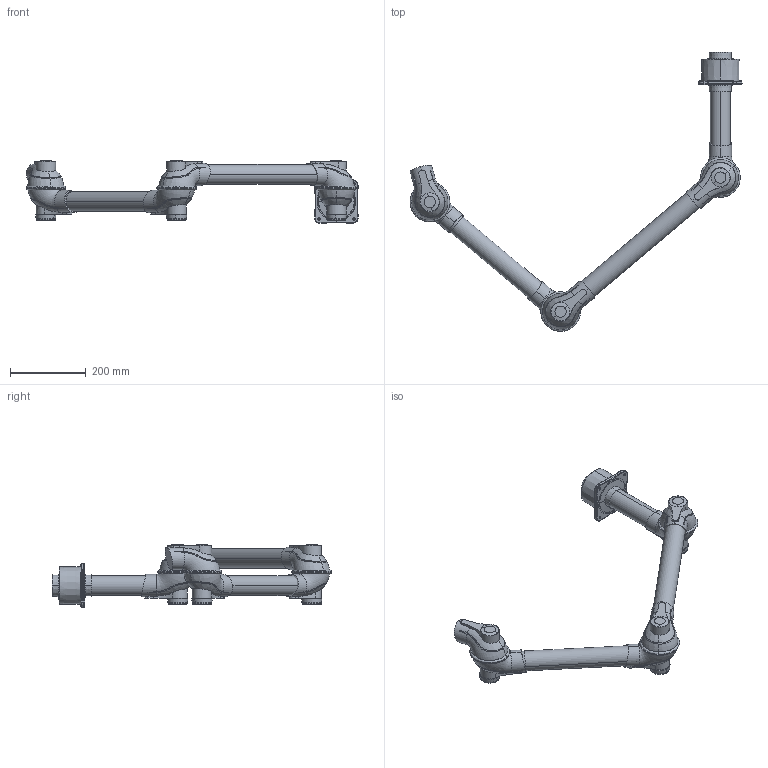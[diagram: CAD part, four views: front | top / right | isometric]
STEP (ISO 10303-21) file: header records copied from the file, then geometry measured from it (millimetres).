
FILE_DESCRIPTION((''),'2;1');
FILE_NAME('102205','2015-10-01T',('Tomas Bellgran'),(''),'PRO/ENGINEER BY PARAMETRIC TECHNOLOGY CORPORATION, 2013410','PRO/ENGINEER BY PARAMETRIC TECHNOLOGY CORPORATION, 2013410','');
FILE_SCHEMA(('AUTOMOTIVE_DESIGN { 1 0 10303 214 1 1 1 1 }'));
Length unit declared in the file: millimetre
Products named in the file (12): 100350; 102161; 102200; 102176; 102163; 102178; 102162; 102168; 105-5481; 101156; 102177; 102205
Assembly tree (18 placements, depth 4):
  102205
    102176
      100350
      102161
      102200
    102178
      102200  x2
      102163
    102168
      102162
      102200
    102177
      102200  x2
      101156
        105-5481
    101156  x2
      105-5481
Bounding box: 875.45 x 735.93 x 164.28 mm (x, y, z)
Volume: 5894227.6 mm3; surface area: 507001.8 mm2
Topology: 13 solids, 13 shells, 644 faces, 1546 edges, 945 vertices
Faces by surface type: bspline 240, plane 178, cone 111, cylinder 66, torus 28, sphere 21
Entity records: 27630 total; most frequent: CARTESIAN_POINT 13711, ORIENTED_EDGE 1500, DIRECTION 1036, PRESENTATION_STYLE_ASSIGNMENT 1033, STYLED_ITEM 1033, CURVE_STYLE 750, EDGE_CURVE 750, PROPERTY_DEFINITION 542
